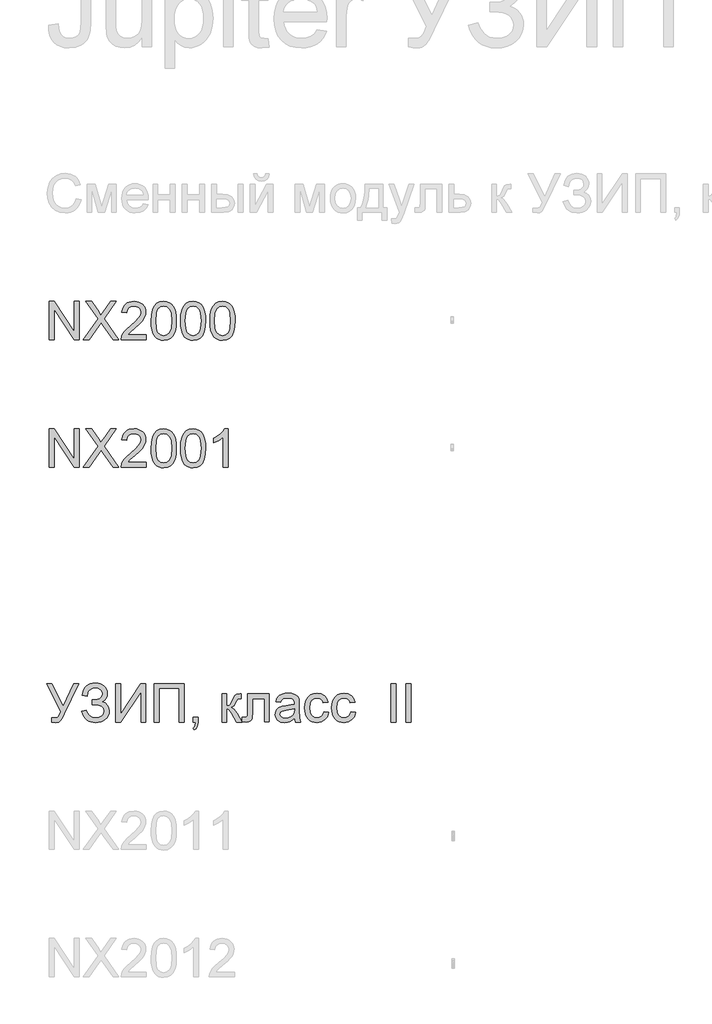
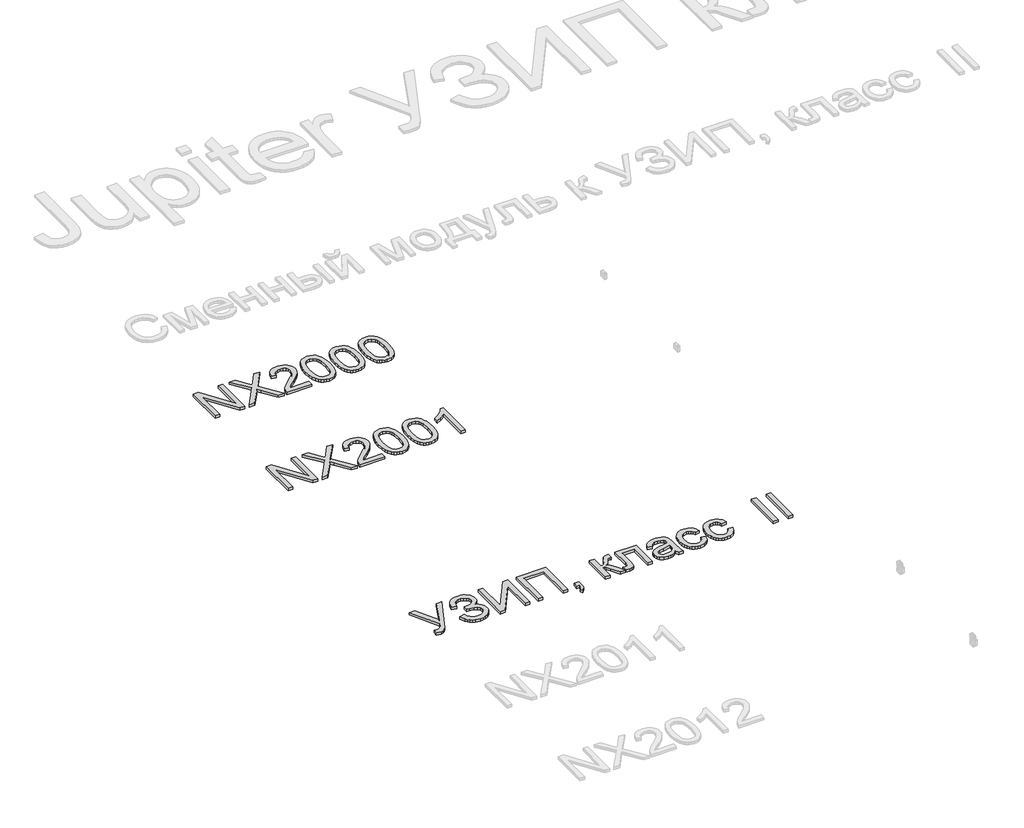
# One storey, part 27 of 124: 3 proxies.
"""IFC4 building model written with IfcOpenShell, lengths in millimetres."""

from ifc_helpers import new_model, si_unit, origin, origin_with_axes, place, context, project, spatial, polyline, outline, extrude, element, save

model = new_model("IFC4")

# Units and contexts
model_context = context("Model", 3, world=origin())
ifc_project = project(units=[si_unit("LENGTHUNIT", "METRE", prefix="MILLI")], contexts=[model_context])

# Site, building, storey
site = spatial("IfcSite", under=ifc_project)
building = spatial("IfcBuilding", under=site)
storey = spatial("IfcBuildingStorey", under=building, Name="Этаж 01", Elevation=0.0)

# Proxies
placement = place(None, origin())
element("IfcBuildingElementProxy", 1, Name="300", ObjectType="300", at=placement, inside=storey, context=model_context, shape_type="SweptSolid", body=[
    extrude(outline(polyline([(49499.8220677, -117116.6913893), (49499.8220677, -116815.3224589), (49540.1419344, -116815.3224589), (49697.5954283, -117054.0778737), (49697.5954283, -116815.3224589), (49735.2665446, -116815.3224589), (49735.2665446, -117116.6913893), (49694.9466779, -117116.6913893), (49537.493184, -116877.862398), (49537.493184, -117116.6913893), (49499.8220677, -117116.6913893)])), origin_with_axes(), (0.0, 0.0, 1.0), 20.0),
    extrude(outline(polyline([(49768.2287714, -117116.6913893), (49884.4059055, -116952.4688667), (49787.0643295, -116815.3224589), (49832.2402385, -116815.3224589), (49887.0546558, -116892.5041014), (49905.522332, -116922.5968486), (49927.1537933, -116891.9890666), (49981.3795994, -116815.3224589), (50027.217696, -116815.3224589), (49929.8761201, -116952.910325), (50046.0532541, -117116.6913893), (50000.8773451, -117116.6913893), (49923.4749733, -117007.5040131), (49907.361742, -116984.8424822), (49889.6298298, -117009.7113051), (49814.066868, -117116.6913893), (49768.2287714, -117116.6913893)])), origin_with_axes(), (0.0, 0.0, 1.0), 20.0),
    extrude(outline(polyline([(50262.6621729, -117079.020273), (50262.6621729, -117116.6913893), (50064.8888123, -117116.6913893), (50068.9355142, -117090.7189204), (50078.2245346, -117070.4210314), (50091.8177743, -117050.7301476), (50111.481067, -117030.1195588), (50138.9802461, -117007.0625547), (50179.6312066, -116970.9549369), (50204.0217829, -116944.3018864), (50216.217071, -116922.670425), (50220.282167, -116901.6275749), (50216.4469972, -116882.7644256), (50204.9414878, -116867.0834556), (50187.2555609, -116856.5160453), (50164.8791386, -116852.9935752), (50141.3806761, -116856.4332718), (50123.1245321, -116866.7523618), (50111.3431112, -116883.1415047), (50107.2688181, -116904.7913601), (50069.5977018, -116900.0824705), (50078.7303724, -116863.6437589), (50087.276731, -116849.1078216), (50098.4764384, -116837.0274966), (50112.0719774, -116827.5315426), (50127.8058305, -116820.7487183), (50165.688479, -116815.3224589), (50185.8783027, -116816.830775), (50203.8470389, -116821.3557236), (50219.5946876, -116828.8973045), (50233.1212487, -116839.4555177), (50243.9852638, -116852.2486141), (50251.7452747, -116866.4948444), (50256.4012812, -116882.1942085), (50257.9532834, -116899.3467065), (50256.2794203, -116917.3637273), (50251.257831, -116935.0680483), (50242.3458897, -116953.0758719), (50229.0009703, -116972.0034006), (50207.728194, -116994.6005522), (50175.0326816, -117023.6172445), (50131.6961826, -117059.853621), (50114.7000344, -117079.020273), (50262.6621729, -117079.020273)])), origin_with_axes(), (0.0, 0.0, 1.0), 20.0),
    extrude(outline(polyline([(50300.3332892, -116968.4349452), (50303.1016012, -116920.1964186), (50311.4065373, -116881.725159), (50325.1653239, -116852.4325551), (50344.2951876, -116831.7299958), (50368.9340842, -116819.4243431), (50399.2199695, -116815.3224589), (50422.4333234, -116817.75048), (50443.2186561, -116825.0345435), (50460.6010804, -116836.8895408), (50473.6057089, -116853.0303634), (50483.4281582, -116873.3190554), (50491.2640447, -116897.6176612), (50496.3959985, -116928.4737635), (50498.1066498, -116968.4349452), (50495.3659289, -117016.3975604), (50487.1437663, -117054.7768495), (50473.4677532, -117084.0970445), (50454.3654806, -117104.8823773), (50429.6714017, -117117.2708034), (50399.2199695, -117121.4002788), (50378.471425, -117119.6068541), (50360.0773252, -117114.2265799), (50344.0376702, -117105.2594563), (50330.35246, -117092.7054832), (50317.2190728, -117070.0117626), (50307.8380819, -117041.7354328), (50302.2094874, -117007.8764937), (50300.3332892, -116968.4349452)]), holes=[polyline([(50338.0044055, -116968.3613688), (50342.4189894, -117027.6179612), (50347.9372194, -117047.8859599), (50355.6627413, -117061.9137602), (50375.3812162, -117078.275312), (50399.2199695, -117083.7291625), (50423.0587228, -117078.2569179), (50442.7771977, -117061.8401838), (50450.5027196, -117047.7893909), (50456.0209496, -117027.5259907), (50460.4355335, -116968.3613688), (50456.1681024, -116910.4383487), (50450.8338134, -116890.2370286), (50443.3658089, -116875.8758353), (50423.6841222, -116858.7141402), (50398.7785111, -116852.9935752), (50375.1972752, -116858.0335585), (50356.2513525, -116873.1535085), (50348.2683132, -116888.7884933), (50342.5661422, -116909.8681316), (50338.0044055, -116968.3613688)])]), origin_with_axes(), (0.0, 0.0, 1.0), 20.0),
    extrude(outline(polyline([(50531.0688766, -116968.4349452), (50533.8371886, -116920.1964186), (50542.1421246, -116881.725159), (50555.9009112, -116852.4325551), (50575.030775, -116831.7299958), (50599.6696716, -116819.4243431), (50629.9555569, -116815.3224589), (50653.1689108, -116817.75048), (50673.9542435, -116825.0345435), (50691.3366678, -116836.8895408), (50704.3412963, -116853.0303634), (50714.1637456, -116873.3190554), (50721.9996321, -116897.6176612), (50727.1315859, -116928.4737635), (50728.8422372, -116968.4349452), (50726.1015163, -117016.3975604), (50717.8793537, -117054.7768495), (50704.2033406, -117084.0970445), (50685.101068, -117104.8823773), (50660.406989, -117117.2708034), (50629.9555569, -117121.4002788), (50609.2070123, -117119.6068541), (50590.8129126, -117114.2265799), (50574.7732576, -117105.2594563), (50561.0880474, -117092.7054832), (50547.9546602, -117070.0117626), (50538.5736693, -117041.7354328), (50532.9450747, -117007.8764937), (50531.0688766, -116968.4349452)]), holes=[polyline([(50568.7399929, -116968.3613688), (50573.1545768, -117027.6179612), (50578.6728067, -117047.8859599), (50586.3983286, -117061.9137602), (50606.1168036, -117078.275312), (50629.9555569, -117083.7291625), (50653.7943102, -117078.2569179), (50673.5127851, -117061.8401838), (50681.238307, -117047.7893909), (50686.7565369, -117027.5259907), (50691.1711209, -116968.3613688), (50686.9036897, -116910.4383487), (50681.5694008, -116890.2370286), (50674.1013963, -116875.8758353), (50654.4197096, -116858.7141402), (50629.5140985, -116852.9935752), (50605.9328626, -116858.0335585), (50586.9869398, -116873.1535085), (50579.0039005, -116888.7884933), (50573.3017296, -116909.8681316), (50568.7399929, -116968.3613688)])]), origin_with_axes(), (0.0, 0.0, 1.0), 20.0),
    extrude(outline(polyline([(50761.8044639, -116968.4349452), (50764.572776, -116920.1964186), (50772.877712, -116881.725159), (50786.6364986, -116852.4325551), (50805.7663624, -116831.7299958), (50830.405259, -116819.4243431), (50860.6911443, -116815.3224589), (50883.9044981, -116817.75048), (50904.6898309, -116825.0345435), (50922.0722551, -116836.8895408), (50935.0768837, -116853.0303634), (50944.8993329, -116873.3190554), (50952.7352194, -116897.6176612), (50957.8671733, -116928.4737635), (50959.5778246, -116968.4349452), (50956.8371037, -117016.3975604), (50948.6149411, -117054.7768495), (50934.9389279, -117084.0970445), (50915.8366553, -117104.8823773), (50891.1425764, -117117.2708034), (50860.6911443, -117121.4002788), (50839.9425997, -117119.6068541), (50821.5485, -117114.2265799), (50805.508845, -117105.2594563), (50791.8236348, -117092.7054832), (50778.6902475, -117070.0117626), (50769.3092566, -117041.7354328), (50763.6806621, -117007.8764937), (50761.8044639, -116968.4349452)]), holes=[polyline([(50799.4755803, -116968.3613688), (50803.8901642, -117027.6179612), (50809.4083941, -117047.8859599), (50817.133916, -117061.9137602), (50836.852391, -117078.275312), (50860.6911443, -117083.7291625), (50884.5298975, -117078.2569179), (50904.2483725, -117061.8401838), (50911.9738944, -117047.7893909), (50917.4921243, -117027.5259907), (50921.9067082, -116968.3613688), (50917.6392771, -116910.4383487), (50912.3049882, -116890.2370286), (50904.8369837, -116875.8758353), (50885.1552969, -116858.7141402), (50860.2496859, -116852.9935752), (50836.66845, -116858.0335585), (50817.7225272, -116873.1535085), (50809.7394879, -116888.7884933), (50804.037317, -116909.8681316), (50799.4755803, -116968.3613688)])]), origin_with_axes(), (0.0, 0.0, 1.0), 20.0),
])
element("IfcBuildingElementProxy", 2, Name="300", ObjectType="300", at=placement, inside=storey, context=model_context, shape_type="SweptSolid", body=[
    extrude(outline(polyline([(49499.8220677, -118116.6913893), (49499.8220677, -117815.3224589), (49540.1419344, -117815.3224589), (49697.5954283, -118054.0778737), (49697.5954283, -117815.3224589), (49735.2665446, -117815.3224589), (49735.2665446, -118116.6913893), (49694.9466779, -118116.6913893), (49537.493184, -117877.862398), (49537.493184, -118116.6913893), (49499.8220677, -118116.6913893)])), origin_with_axes(), (0.0, 0.0, 1.0), 20.0),
    extrude(outline(polyline([(49768.2287714, -118116.6913893), (49884.4059055, -117952.4688667), (49787.0643295, -117815.3224589), (49832.2402385, -117815.3224589), (49887.0546558, -117892.5041014), (49905.522332, -117922.5968486), (49927.1537933, -117891.9890666), (49981.3795994, -117815.3224589), (50027.217696, -117815.3224589), (49929.8761201, -117952.910325), (50046.0532541, -118116.6913893), (50000.8773451, -118116.6913893), (49923.4749733, -118007.5040131), (49907.361742, -117984.8424822), (49889.6298298, -118009.7113051), (49814.066868, -118116.6913893), (49768.2287714, -118116.6913893)])), origin_with_axes(), (0.0, 0.0, 1.0), 20.0),
    extrude(outline(polyline([(50262.6621729, -118079.020273), (50262.6621729, -118116.6913893), (50064.8888123, -118116.6913893), (50068.9355142, -118090.7189204), (50078.2245346, -118070.4210314), (50091.8177743, -118050.7301476), (50111.481067, -118030.1195588), (50138.9802461, -118007.0625547), (50179.6312066, -117970.9549369), (50204.0217829, -117944.3018864), (50216.217071, -117922.670425), (50220.282167, -117901.6275749), (50216.4469972, -117882.7644256), (50204.9414878, -117867.0834556), (50187.2555609, -117856.5160453), (50164.8791386, -117852.9935752), (50141.3806761, -117856.4332718), (50123.1245321, -117866.7523618), (50111.3431112, -117883.1415047), (50107.2688181, -117904.7913601), (50069.5977018, -117900.0824705), (50078.7303724, -117863.6437589), (50087.276731, -117849.1078216), (50098.4764384, -117837.0274966), (50112.0719774, -117827.5315426), (50127.8058305, -117820.7487183), (50165.688479, -117815.3224589), (50185.8783027, -117816.830775), (50203.8470389, -117821.3557236), (50219.5946876, -117828.8973045), (50233.1212487, -117839.4555177), (50243.9852638, -117852.2486141), (50251.7452747, -117866.4948444), (50256.4012812, -117882.1942085), (50257.9532834, -117899.3467065), (50256.2794203, -117917.3637273), (50251.257831, -117935.0680483), (50242.3458897, -117953.0758719), (50229.0009703, -117972.0034006), (50207.728194, -117994.6005522), (50175.0326816, -118023.6172445), (50131.6961826, -118059.853621), (50114.7000344, -118079.020273), (50262.6621729, -118079.020273)])), origin_with_axes(), (0.0, 0.0, 1.0), 20.0),
    extrude(outline(polyline([(50300.3332892, -117968.4349452), (50303.1016012, -117920.1964186), (50311.4065373, -117881.725159), (50325.1653239, -117852.4325551), (50344.2951876, -117831.7299958), (50368.9340842, -117819.4243431), (50399.2199695, -117815.3224589), (50422.4333234, -117817.75048), (50443.2186561, -117825.0345435), (50460.6010804, -117836.8895408), (50473.6057089, -117853.0303634), (50483.4281582, -117873.3190554), (50491.2640447, -117897.6176612), (50496.3959985, -117928.4737635), (50498.1066498, -117968.4349452), (50495.3659289, -118016.3975604), (50487.1437663, -118054.7768495), (50473.4677532, -118084.0970445), (50454.3654806, -118104.8823773), (50429.6714017, -118117.2708034), (50399.2199695, -118121.4002788), (50378.471425, -118119.6068541), (50360.0773252, -118114.2265799), (50344.0376702, -118105.2594563), (50330.35246, -118092.7054832), (50317.2190728, -118070.0117626), (50307.8380819, -118041.7354328), (50302.2094874, -118007.8764937), (50300.3332892, -117968.4349452)]), holes=[polyline([(50338.0044055, -117968.3613688), (50342.4189894, -118027.6179612), (50347.9372194, -118047.8859599), (50355.6627413, -118061.9137602), (50375.3812162, -118078.275312), (50399.2199695, -118083.7291625), (50423.0587228, -118078.2569179), (50442.7771977, -118061.8401838), (50450.5027196, -118047.7893909), (50456.0209496, -118027.5259907), (50460.4355335, -117968.3613688), (50456.1681024, -117910.4383487), (50450.8338134, -117890.2370286), (50443.3658089, -117875.8758353), (50423.6841222, -117858.7141402), (50398.7785111, -117852.9935752), (50375.1972752, -117858.0335585), (50356.2513525, -117873.1535085), (50348.2683132, -117888.7884933), (50342.5661422, -117909.8681316), (50338.0044055, -117968.3613688)])]), origin_with_axes(), (0.0, 0.0, 1.0), 20.0),
    extrude(outline(polyline([(50531.0688766, -117968.4349452), (50533.8371886, -117920.1964186), (50542.1421246, -117881.725159), (50555.9009112, -117852.4325551), (50575.030775, -117831.7299958), (50599.6696716, -117819.4243431), (50629.9555569, -117815.3224589), (50653.1689108, -117817.75048), (50673.9542435, -117825.0345435), (50691.3366678, -117836.8895408), (50704.3412963, -117853.0303634), (50714.1637456, -117873.3190554), (50721.9996321, -117897.6176612), (50727.1315859, -117928.4737635), (50728.8422372, -117968.4349452), (50726.1015163, -118016.3975604), (50717.8793537, -118054.7768495), (50704.2033406, -118084.0970445), (50685.101068, -118104.8823773), (50660.406989, -118117.2708034), (50629.9555569, -118121.4002788), (50609.2070123, -118119.6068541), (50590.8129126, -118114.2265799), (50574.7732576, -118105.2594563), (50561.0880474, -118092.7054832), (50547.9546602, -118070.0117626), (50538.5736693, -118041.7354328), (50532.9450747, -118007.8764937), (50531.0688766, -117968.4349452)]), holes=[polyline([(50568.7399929, -117968.3613688), (50573.1545768, -118027.6179612), (50578.6728067, -118047.8859599), (50586.3983286, -118061.9137602), (50606.1168036, -118078.275312), (50629.9555569, -118083.7291625), (50653.7943102, -118078.2569179), (50673.5127851, -118061.8401838), (50681.238307, -118047.7893909), (50686.7565369, -118027.5259907), (50691.1711209, -117968.3613688), (50686.9036897, -117910.4383487), (50681.5694008, -117890.2370286), (50674.1013963, -117875.8758353), (50654.4197096, -117858.7141402), (50629.5140985, -117852.9935752), (50605.9328626, -117858.0335585), (50586.9869398, -117873.1535085), (50579.0039005, -117888.7884933), (50573.3017296, -117909.8681316), (50568.7399929, -117968.3613688)])]), origin_with_axes(), (0.0, 0.0, 1.0), 20.0),
    extrude(outline(polyline([(50903.0711501, -118116.6913893), (50865.4000338, -118116.6913893), (50865.4000338, -117881.8355236), (50829.7154803, -117907.2561694), (50790.0578012, -117926.2756686), (50790.0578012, -117890.6646915), (50819.6447106, -117874.5698542), (50845.2768887, -117855.4215963), (50865.4828072, -117835.0593279), (50878.7909384, -117815.3224589), (50903.0711501, -117815.3224589), (50903.0711501, -118116.6913893)])), origin_with_axes(), (0.0, 0.0, 1.0), 20.0),
])
element("IfcBuildingElementProxy", 3, Name="300", ObjectType="300", at=placement, inside=storey, context=model_context, shape_type="SweptSolid", body=[
    extrude(outline(polyline([(49478.6320648, -119815.3224589), (49520.349883, -119815.3224589), (49610.4809718, -119993.8188029), (49691.5621636, -119815.3224589), (49732.9120998, -119815.3224589), (49618.5007993, -120050.1047482), (49601.2287397, -120086.5618539), (49587.3779825, -120107.788645), (49572.6075204, -120117.9973704), (49552.5763458, -120121.4002788), (49518.6576258, -120116.6913893), (49518.6576258, -120083.7291625), (49548.3089147, -120083.7291625), (49560.173109, -120081.6322352), (49570.308258, -120075.341453), (49580.0387367, -120061.6010605), (49590.6889205, -120037.1553019), (49478.6320648, -119815.3224589)])), origin_with_axes(), (0.0, 0.0, 1.0), 20.0),
    extrude(outline(polyline([(49754.1021028, -120031.9313776), (49791.7732191, -120022.5135985), (49799.7286672, -120042.9034581), (49814.9129966, -120063.3117118), (49836.7743841, -120078.6247998), (49864.7610069, -120083.7291625), (49893.1155117, -120079.8939927), (49914.7561701, -120068.3884833), (49928.4689714, -120051.4567145), (49933.0399052, -120031.3427664), (49928.0459071, -120010.2723251), (49913.0639129, -119994.0027439), (49889.4734799, -119983.6008805), (49858.6541658, -119980.1335927), (49838.8621144, -119980.1335927), (49838.8621144, -119942.4624764), (49881.4996377, -119939.4090558), (49895.3963801, -119933.9827964), (49907.5824711, -119923.8108592), (49916.0805452, -119910.4107576), (49918.9132366, -119895.3000046), (49915.1424461, -119877.5588954), (49903.8300748, -119862.3009896), (49886.0797685, -119851.7887616), (49862.9951733, -119848.2846856), (49842.1270672, -119850.9794212), (49824.5515048, -119859.0636281), (49811.0870238, -119871.5992071), (49802.5521615, -119887.6480591), (49796.4821086, -119914.2091392), (49758.8109923, -119904.7913601), (49770.5142383, -119863.5885766), (49779.9285685, -119847.4017688), (49791.7180368, -119834.158017), (49805.8826432, -119823.8573211), (49822.4223878, -119816.4996812), (49841.3372705, -119812.0850973), (49862.6272913, -119810.6135693), (49883.1390118, -119812.1425789), (49901.4112507, -119816.7296075), (49917.4440079, -119824.3746552), (49931.2372834, -119835.077722), (49942.3266263, -119847.8271324), (49950.2475855, -119861.6112109), (49955.0001611, -119876.4299575), (49956.5843529, -119892.2833722), (49954.1195435, -119912.1076133), (49946.7251154, -119929.5682125), (49934.4010686, -119944.6651698), (49917.147403, -119957.3984854), (49938.0982826, -119967.0461907), (49955.3335541, -119983.334166), (49966.8666547, -120004.8644598), (49970.7110215, -120030.2391204), (49968.867013, -120048.8700442), (49963.3349875, -120065.9144769), (49954.114945, -120081.3724185), (49941.2068855, -120095.243869), (49925.2546025, -120106.6872983), (49906.9018895, -120114.8611764), (49886.1487464, -120119.7655032), (49862.9951733, -120121.4002788), (49824.7906281, -120115.8084725), (49808.4336749, -120108.8187146), (49793.9069346, -120099.0330535), (49781.2104073, -120086.4514893), (49770.3440928, -120071.0740219), (49754.1021028, -120031.9313776)])), origin_with_axes(), (0.0, 0.0, 1.0), 20.0),
    extrude(outline(polyline([(50022.5088064, -119815.3224589), (50060.1799227, -119815.3224589), (50060.1799227, -120054.0042973), (50217.9277223, -119815.3224589), (50257.9532834, -119815.3224589), (50257.9532834, -120116.6913893), (50220.282167, -120116.6913893), (50220.282167, -119878.6717384), (50062.9022495, -120116.6913893), (50022.5088064, -120116.6913893), (50022.5088064, -119815.3224589)])), origin_with_axes(), (0.0, 0.0, 1.0), 20.0),
    extrude(outline(polyline([(50323.8777369, -119815.3224589), (50559.3222138, -119815.3224589), (50559.3222138, -120116.6913893), (50521.6510975, -120116.6913893), (50521.6510975, -119852.9935752), (50361.5488532, -119852.9935752), (50361.5488532, -120116.6913893), (50323.8777369, -120116.6913893), (50323.8777369, -119815.3224589)])), origin_with_axes(), (0.0, 0.0, 1.0), 20.0),
    extrude(outline(polyline([(50629.9555569, -120116.6913893), (50629.9555569, -120079.020273), (50667.6266732, -120079.020273), (50667.6266732, -120116.6913893), (50665.934416, -120138.2400772), (50660.8576445, -120155.2086342), (50652.102053, -120168.2224598), (50639.373336, -120177.9069533), (50629.9555569, -120163.7802847), (50638.1225372, -120156.9560737), (50643.7879199, -120147.5199005), (50648.7175386, -120116.6913893), (50629.9555569, -120116.6913893)])), origin_with_axes(), (0.0, 0.0, 1.0), 20.0),
    extrude(outline(polyline([(50855.9822547, -119895.373581), (50893.653371, -119895.373581), (50893.653371, -119989.5513718), (50908.9756561, -119987.8591146), (50918.8900759, -119982.7823431), (50927.6640615, -119969.5385912), (50939.565044, -119943.3453932), (50956.7451332, -119909.3163086), (50971.9018714, -119898.2430606), (50999.4562328, -119895.373581), (51006.6667199, -119895.373581), (51006.6667199, -119933.2654265), (50996.5131769, -119933.0446973), (50978.1190771, -119937.0178229), (50965.1696309, -119961.8130693), (50949.9761045, -119988.6316668), (50928.675737, -120001.765054), (50940.6135077, -120007.0671533), (50952.4409138, -120016.4251515), (50975.7646323, -120047.308845), (51016.084499, -120116.6913893), (50973.2630348, -120116.6913893), (50933.7525085, -120048.780373), (50913.8868808, -120020.0487892), (50904.5978604, -120014.8340619), (50893.653371, -120013.0958195), (50893.653371, -120116.6913893), (50855.9822547, -120116.6913893), (50855.9822547, -119895.373581)])), origin_with_axes(), (0.0, 0.0, 1.0), 20.0),
    extrude(outline(polyline([(51058.4645049, -119895.373581), (51227.9845282, -119895.373581), (51227.9845282, -120116.4706601), (51190.3134119, -120116.4706601), (51190.3134119, -119933.0446973), (51096.1356212, -119933.0446973), (51096.1356212, -120038.6268299), (51093.5972354, -120087.3344061), (51088.8423606, -120098.3616689), (51079.6545078, -120107.8990096), (51065.7117802, -120114.4932944), (51046.692281, -120116.6913893), (51016.084499, -120114.7784029), (51016.084499, -120079.020273), (51032.9334944, -120079.020273), (51049.9664308, -120076.7026164), (51056.7722477, -120069.3449765), (51058.4645049, -120036.4931144), (51058.4645049, -119895.373581)])), origin_with_axes(), (0.0, 0.0, 1.0), 20.0),
    extrude(outline(polyline([(51425.7578888, -120088.4380521), (51407.7592622, -120103.8707018), (51389.2272067, -120113.9690625), (51369.738658, -120119.5424748), (51348.8705519, -120121.4002788), (51317.3890501, -120116.9305126), (51294.1664992, -120103.5212139), (51279.8466925, -120083.1589454), (51275.0734236, -120057.8302701), (51276.8760454, -120042.2136794), (51282.2839107, -120028.0318285), (51290.625635, -120015.8917226), (51301.2298335, -120006.4003671), (51327.6069725, -119994.0395321), (51360.2013173, -119988.3741494), (51398.7185622, -119982.4144611), (51425.5371596, -119975.4247032), (51425.7578888, -119967.0369937), (51423.1643208, -119950.2247865), (51415.3836166, -119939.2251148), (51397.9827982, -119931.0581345), (51373.7393747, -119928.3358078), (51351.298573, -119930.1476266), (51335.6268, -119935.5830831), (51324.9398281, -119945.6354586), (51317.4534295, -119961.2980345), (51279.7823132, -119956.589145), (51286.3214156, -119935.9877533), (51296.0794855, -119919.8009455), (51309.9670309, -119907.4217163), (51328.8945595, -119898.2430606), (51352.0435341, -119892.5592837), (51378.5954171, -119890.6646915), (51404.0620482, -119892.3385545), (51424.2495727, -119897.3601438), (51439.4706902, -119904.9109217), (51450.0381005, -119914.172351), (51457.0462525, -119925.6226781), (51461.5895952, -119939.7401496), (51463.4290051, -119972.7023764), (51463.4290051, -120019.5705426), (51465.3419915, -120085.0167495), (51472.8467842, -120116.6913893), (51435.1756679, -120116.6913893), (51425.7578888, -120088.4380521)]), holes=[polyline([(51425.7578888, -120013.0958195), (51364.9837832, -120024.6473141), (51332.5733795, -120030.7541552), (51317.8948879, -120040.6869691), (51312.7445399, -120055.1815197), (51315.5496401, -120066.3835265), (51323.9649408, -120075.5621822), (51337.8065008, -120081.6874175), (51356.8903793, -120083.7291625), (51377.1238891, -120081.4758853), (51395.002954, -120074.7160537), (51409.4975047, -120064.7556486), (51419.5774713, -120052.9006513), (51424.0472376, -120040.6869691), (51425.5371596, -120023.7643973), (51425.7578888, -120013.0958195)])]), origin_with_axes(), (0.0, 0.0, 1.0), 20.0),
    extrude(outline(polyline([(51656.4934762, -120036.6402671), (51694.1645925, -120041.3491567), (51683.6615616, -120074.8540094), (51663.9246925, -120100.1734877), (51636.8117895, -120116.0935811), (51604.1806565, -120121.4002788), (51583.0527337, -120119.5493726), (51564.1091102, -120113.9966537), (51547.349786, -120104.7421222), (51532.7747612, -120091.7857782), (51520.9772455, -120075.3713435), (51512.5504486, -120055.7425397), (51507.4943704, -120032.8993671), (51505.809011, -120006.8418255), (51508.6876876, -119973.3185787), (51517.3237174, -119944.2650982), (51531.8550563, -119920.8034239), (51552.4196598, -119904.0555961), (51577.0217682, -119894.0124176), (51603.6656217, -119890.6646915), (51635.4966113, -119895.2632164), (51660.9448484, -119909.0587912), (51679.2009924, -119931.3156519), (51689.455703, -119961.2980345), (51651.7845867, -119966.0069241), (51644.9511786, -119949.5717959), (51634.3101919, -119937.790375), (51620.4502377, -119930.6994496), (51603.9599273, -119928.3358078), (51579.6153363, -119932.989515), (51560.2923345, -119946.9506367), (51547.6831791, -119970.973331), (51543.4801273, -120005.811756), (51547.5912086, -120041.1192304), (51559.9244525, -120065.2246982), (51578.8979664, -120079.1030464), (51602.9298577, -120083.7291625), (51622.4368005, -120080.8412889), (51638.4304703, -120072.1776679), (51650.0647384, -120057.5175704), (51656.4934762, -120036.6402671)])), origin_with_axes(), (0.0, 0.0, 1.0), 20.0),
    extrude(outline(polyline([(51868.3935054, -120036.6402671), (51906.0646217, -120041.3491567), (51895.5615908, -120074.8540094), (51875.8247217, -120100.1734877), (51848.7118187, -120116.0935811), (51816.0806857, -120121.4002788), (51794.9527629, -120119.5493726), (51776.0091394, -120113.9966537), (51759.2498153, -120104.7421222), (51744.6747905, -120091.7857782), (51732.8772747, -120075.3713435), (51724.4504778, -120055.7425397), (51719.3943996, -120032.8993671), (51717.7090402, -120006.8418255), (51720.5877168, -119973.3185787), (51729.2237467, -119944.2650982), (51743.7550855, -119920.8034239), (51764.319689, -119904.0555961), (51788.9217974, -119894.0124176), (51815.5656509, -119890.6646915), (51847.3966406, -119895.2632164), (51872.8448776, -119909.0587912), (51891.1010216, -119931.3156519), (51901.3557322, -119961.2980345), (51863.6846159, -119966.0069241), (51856.8512078, -119949.5717959), (51846.2102211, -119937.790375), (51832.350267, -119930.6994496), (51815.8599565, -119928.3358078), (51791.5153655, -119932.989515), (51772.1923637, -119946.9506367), (51759.5832083, -119970.973331), (51755.3801565, -120005.811756), (51759.4912378, -120041.1192304), (51771.8244817, -120065.2246982), (51790.7979956, -120079.1030464), (51814.8298869, -120083.7291625), (51834.3368297, -120080.8412889), (51850.3304995, -120072.1776679), (51861.9647676, -120057.5175704), (51868.3935054, -120036.6402671)])), origin_with_axes(), (0.0, 0.0, 1.0), 20.0),
    extrude(outline(polyline([(52183.8891045, -120116.6913893), (52183.8891045, -119815.3224589), (52221.5602208, -119815.3224589), (52221.5602208, -120116.6913893), (52183.8891045, -120116.6913893)])), origin_with_axes(), (0.0, 0.0, 1.0), 20.0),
    extrude(outline(polyline([(52301.611343, -120116.6913893), (52301.611343, -119815.3224589), (52339.2824593, -119815.3224589), (52339.2824593, -120116.6913893), (52301.611343, -120116.6913893)])), origin_with_axes(), (0.0, 0.0, 1.0), 20.0),
])

save(model, "model.ifc")
